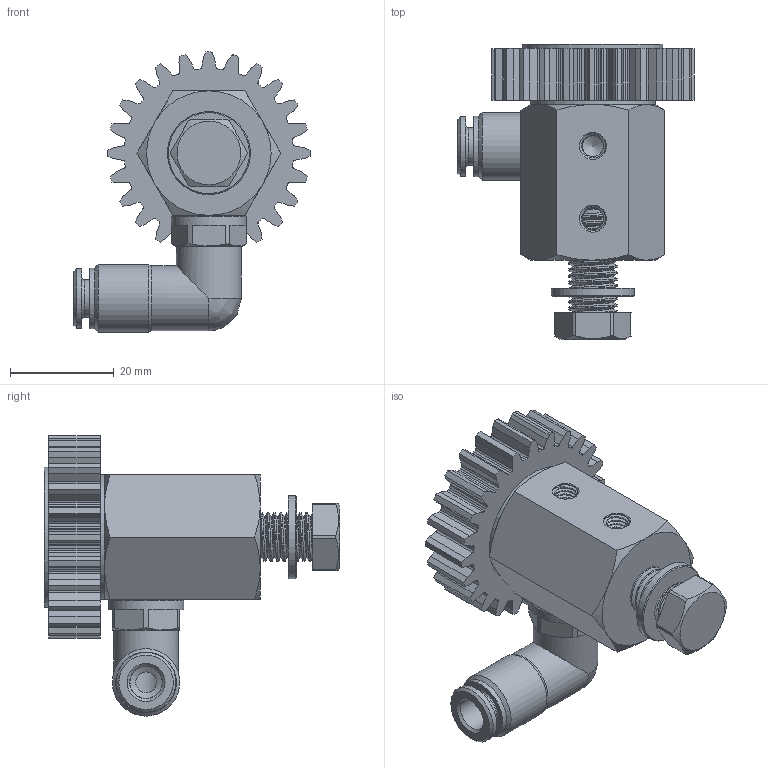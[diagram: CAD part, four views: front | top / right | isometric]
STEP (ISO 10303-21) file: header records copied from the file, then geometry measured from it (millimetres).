
FILE_DESCRIPTION (( 'STEP AP214' ), '1' );
FILE_NAME ('012_13_015_10_24BZ.STEP', '2026-04-08T12:42:35', ( '' ), ( '' ), 'SwSTEP 2.0', 'SolidWorks 2022', '' );
FILE_SCHEMA (( 'AUTOMOTIVE_DESIGN' ));
Length unit declared in the file: millimetre
Products named in the file (13): RIVOLUZIONE_0_2; 12012_06_01_Scheibe-CRS-VA_27.SLDASM; Schmierzahnrad_010_24_G; RH202242; 012_06_Senkschraube; DR6-C_HDX_25.07.16_1; U_Scheibe_8,4; H202242_HDS022_6_M10X1_08.05.17(1); 012_13b_01_winklige_Achse_lang_M8_1; 012_13_015_10_24BZ; Schraube_M8_20; 12012_06_00_Scheibe-CRS-VA.SLDASM; OR 7.2X1.9_1
Assembly tree (12 placements, depth 3):
  012_13_015_10_24BZ
    012_13b_01_winklige_Achse_lang_M8_1
    Schraube_M8_20
    U_Scheibe_8,4
    H202242_HDS022_6_M10X1_08.05.17(1)
      OR 7.2X1.9_1
      RH202242
      DR6-C_HDX_25.07.16_1
      RIVOLUZIONE_0_2
    12012_06_00_Scheibe-CRS-VA.SLDASM
    12012_06_01_Scheibe-CRS-VA_27.SLDASM
    012_06_Senkschraube
    Schmierzahnrad_010_24_G
Bounding box: 45.5 x 56.9 x 54 mm (x, y, z)
Volume: 30141.7 mm3; surface area: 17838.2 mm2
Topology: 11 solids, 11 shells, 764 faces, 2107 edges, 1398 vertices
Faces by surface type: plane 461, cylinder 130, bspline 116, cone 54, torus 3
Full cylindrical faces by diameter (mm): 3 x1, 4 x2, 5.5 x1, 6 x1, 6.2 x1, 6.3 x1, 6.5 x1, 7.2 x1, 8.4 x1, 8.5 x1, 9 x10, 9.9 x1, 10 x3, 10.1 x2, 10.3 x1, 11.5 x1, 11.7 x1, 12.5 x2, 13 x1, 14.5 x1, 16 x1, 24 x1, 27 x1
Entity records: 46190 total; most frequent: CARTESIAN_POINT 27054, ORIENTED_EDGE 3916, DIRECTION 3194, EDGE_CURVE 1958, VERTEX_POINT 1332, VECTOR 1296, LINE 1296, AXIS2_PLACEMENT_3D 949
